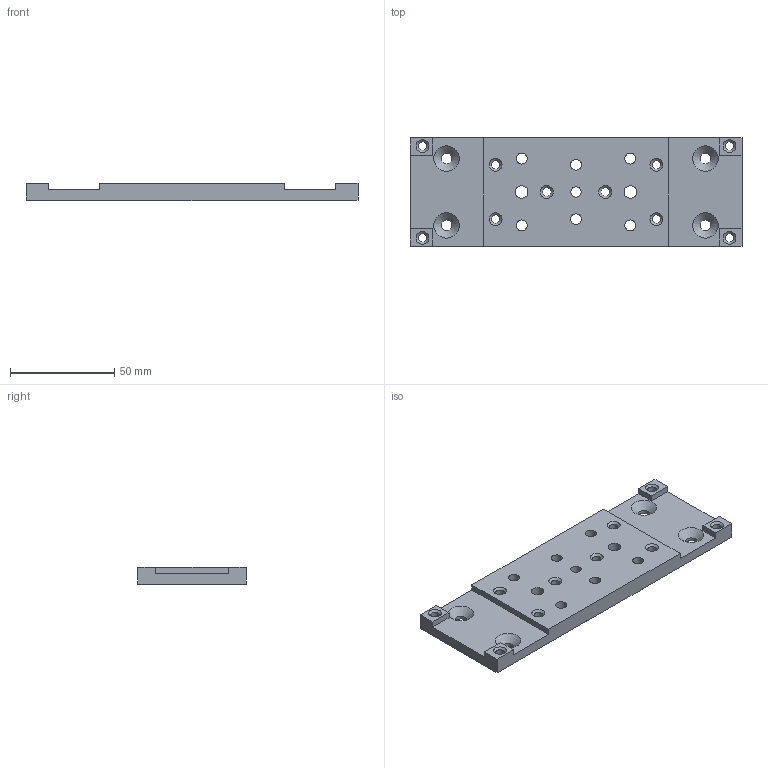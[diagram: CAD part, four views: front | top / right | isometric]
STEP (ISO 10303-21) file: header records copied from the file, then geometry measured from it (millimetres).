
FILE_DESCRIPTION(('STEP AP203'), '1');
FILE_NAME('ﾒﾏﾏﾔ1801.01.12.06.003 - ﾎ魵瑙韃', '', ('UNSPECIFIED'), ('UNSPECIFIED'), 'C3D Converter', 'C3D Toolkit', '');
FILE_SCHEMA(('CONFIG_CONTROL_DESIGN'));
Length unit declared in the file: millimetre
Products named in the file (1): ТППФ1801.01.12.06.003
Bounding box: 159 x 52 x 8.2 mm (x, y, z)
Volume: 52935.6 mm3; surface area: 21608.9 mm2
Topology: 1 solids, 1 shells, 63 faces, 169 edges, 108 vertices
Faces by surface type: plane 26, cylinder 23, cone 14
Full cylindrical faces by diameter (mm): 4.134 x10, 5 x1, 5.2 x10, 6 x2
Entity records: 2422 total; most frequent: DIRECTION 320, CARTESIAN_POINT 304, ORIENTED_EDGE 264, EDGE_LOOP 146, EDGE_CURVE 132, AXIS2_PLACEMENT_3D 124, VERTEX_POINT 108, FACE_OUTER_BOUND 74
